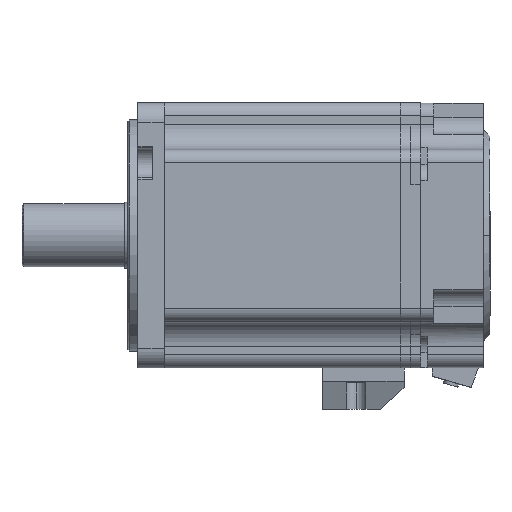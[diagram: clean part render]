
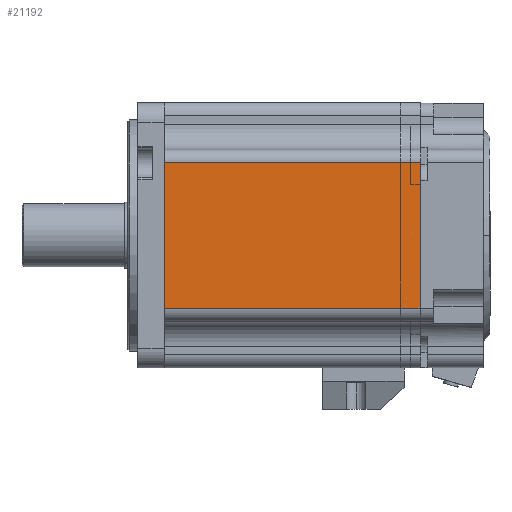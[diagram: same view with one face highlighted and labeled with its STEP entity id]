
A CAD part, front view. The second image highlights one B-rep face of the part: STEP entity #21192.
In plain terms, the highlighted planar face has unit normal (0, -1, 0).
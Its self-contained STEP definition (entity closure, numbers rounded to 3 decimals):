
#84 = DIRECTION ( 'NONE',  ( 0., 0., 1. ) ) ;
#491 = CARTESIAN_POINT ( 'NONE',  ( -29.044, -44.144, 97.7 ) ) ;
#784 = ORIENTED_EDGE ( 'NONE', *, *, #3109, .F. ) ;
#886 = VERTEX_POINT ( 'NONE', #491 ) ;
#1201 = LINE ( 'NONE', #24066, #24161 ) ;
#1886 = DIRECTION ( 'NONE',  ( 1., 0., 0. ) ) ;
#2014 = ORIENTED_EDGE ( 'NONE', *, *, #16550, .F. ) ;
#2119 = ORIENTED_EDGE ( 'NONE', *, *, #3536, .F. ) ;
#3109 = EDGE_CURVE ( 'NONE', #21021, #886, #27232, .T. ) ;
#3536 = EDGE_CURVE ( 'NONE', #9614, #15336, #1201, .T. ) ;
#4280 = CARTESIAN_POINT ( 'NONE',  ( 48.456, -44.144, 119.7 ) ) ;
#5376 = CARTESIAN_POINT ( 'NONE',  ( 48.456, -44.144, 141.7 ) ) ;
#7963 = DIRECTION ( 'NONE',  ( 0., 0., 1. ) ) ;
#9614 = VERTEX_POINT ( 'NONE', #20202 ) ;
#9706 = DIRECTION ( 'NONE',  ( -1., 0., 0. ) ) ;
#9772 = LINE ( 'NONE', #18036, #25452 ) ;
#11477 = VECTOR ( 'NONE', #18510, 1000. ) ;
#14286 = CARTESIAN_POINT ( 'NONE',  ( 78.956, -44.144, 97.7 ) ) ;
#15336 = VERTEX_POINT ( 'NONE', #5376 ) ;
#16550 = EDGE_CURVE ( 'NONE', #15336, #21021, #23334, .T. ) ;
#17201 = DIRECTION ( 'NONE',  ( 0., 1., 0. ) ) ;
#18036 = CARTESIAN_POINT ( 'NONE',  ( -29.044, -44.144, 97.7 ) ) ;
#18510 = DIRECTION ( 'NONE',  ( 0., 0., -1. ) ) ;
#20202 = CARTESIAN_POINT ( 'NONE',  ( -29.044, -44.144, 141.7 ) ) ;
#20228 = EDGE_LOOP ( 'NONE', ( #2119, #22611, #784, #2014 ) ) ;
#21021 = VERTEX_POINT ( 'NONE', #25225 ) ;
#21102 = PLANE ( 'NONE',  #21821 ) ;
#21192 = ADVANCED_FACE ( 'NONE', ( #21261 ), #21102, .F. ) ;
#21261 = FACE_OUTER_BOUND ( 'NONE', #20228, .T. ) ;
#21498 = EDGE_CURVE ( 'NONE', #886, #9614, #9772, .T. ) ;
#21821 = AXIS2_PLACEMENT_3D ( 'NONE', #27885, #17201, #7963 ) ;
#22611 = ORIENTED_EDGE ( 'NONE', *, *, #21498, .F. ) ;
#23334 = LINE ( 'NONE', #4280, #11477 ) ;
#24066 = CARTESIAN_POINT ( 'NONE',  ( 78.956, -44.144, 141.7 ) ) ;
#24161 = VECTOR ( 'NONE', #1886, 1000. ) ;
#25225 = CARTESIAN_POINT ( 'NONE',  ( 48.456, -44.144, 97.7 ) ) ;
#25452 = VECTOR ( 'NONE', #84, 1000. ) ;
#26162 = VECTOR ( 'NONE', #9706, 1000. ) ;
#27232 = LINE ( 'NONE', #14286, #26162 ) ;
#27885 = CARTESIAN_POINT ( 'NONE',  ( 78.956, -44.144, 97.7 ) ) ;
